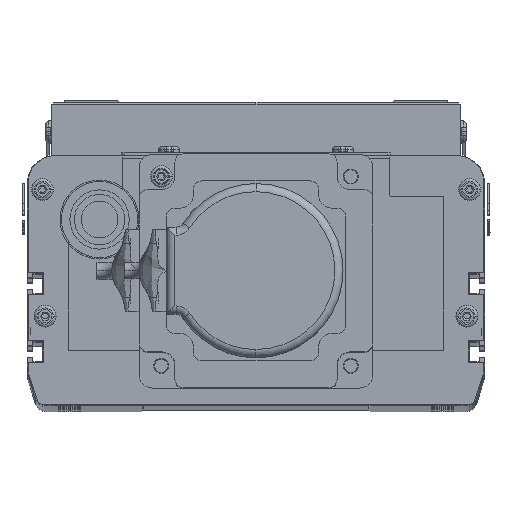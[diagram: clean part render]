
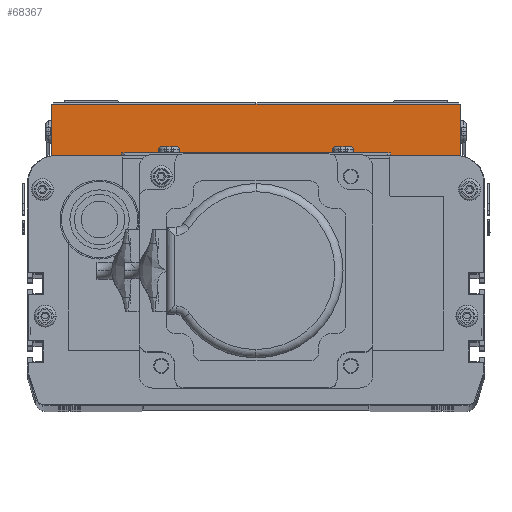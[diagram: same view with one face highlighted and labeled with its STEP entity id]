
A CAD part, top view. The second image highlights one B-rep face of the part: STEP entity #68367.
In plain terms, the highlighted planar face has unit normal (0, 0, 1) as drawn and (1, 0, 0) by its records, which use the part's own axes.
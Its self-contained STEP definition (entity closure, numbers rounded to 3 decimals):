
#40096 = VECTOR ( 'NONE', #40105, 1000. ) ;
#40097 = CARTESIAN_POINT ( 'NONE',  ( 220., 20., -150. ) ) ;
#40098 = LINE ( 'NONE', #40097, #40096 ) ;
#40105 = DIRECTION ( 'NONE',  ( 0., -1., 0. ) ) ;
#40241 = CARTESIAN_POINT ( 'NONE',  ( 220., 0., 0. ) ) ;
#40319 = CARTESIAN_POINT ( 'NONE',  ( 220., 19.5, -150. ) ) ;
#40401 = CARTESIAN_POINT ( 'NONE',  ( 220., 0., -150. ) ) ;
#40906 = DIRECTION ( 'NONE',  ( 0., 0., -1. ) ) ;
#40907 = VECTOR ( 'NONE', #40906, 1000. ) ;
#40908 = CARTESIAN_POINT ( 'NONE',  ( 220., 0., 0. ) ) ;
#41188 = LINE ( 'NONE', #40908, #40907 ) ;
#41230 = CARTESIAN_POINT ( 'NONE',  ( 220., 19.5, 0. ) ) ;
#41299 = DIRECTION ( 'NONE',  ( 0., 0., 1. ) ) ;
#41300 = DIRECTION ( 'NONE',  ( -1., 0., 0. ) ) ;
#41346 = VECTOR ( 'NONE', #41348, 1000. ) ;
#41348 = DIRECTION ( 'NONE',  ( 0., 0., 1. ) ) ;
#41358 = LINE ( 'NONE', #41536, #41346 ) ;
#41366 = DIRECTION ( 'NONE',  ( 0., -1., 0. ) ) ;
#41367 = CARTESIAN_POINT ( 'NONE',  ( 220., 20., 0. ) ) ;
#41368 = LINE ( 'NONE', #41367, #41564 ) ;
#41380 = FACE_OUTER_BOUND ( 'NONE', #68409, .T. ) ;
#41398 = AXIS2_PLACEMENT_3D ( 'NONE', #41522, #41300, #41299 ) ;
#41489 = DIRECTION ( 'NONE',  ( 0., 0., 1. ) ) ;
#41491 = VECTOR ( 'NONE', #41489, 1000. ) ;
#41522 = CARTESIAN_POINT ( 'NONE',  ( 220., 20., 0. ) ) ;
#41523 = PLANE ( 'NONE',  #41398 ) ;
#41536 = CARTESIAN_POINT ( 'NONE',  ( 220., 19.5, 0. ) ) ;
#41564 = VECTOR ( 'NONE', #41366, 1000. ) ;
#41566 = CARTESIAN_POINT ( 'NONE',  ( 220., 19.5, -75. ) ) ;
#41567 = CARTESIAN_POINT ( 'NONE',  ( 220., 19.5, 0. ) ) ;
#41568 = LINE ( 'NONE', #41567, #41491 ) ;
#67815 = EDGE_CURVE ( 'NONE', #67914, #67915, #40098, .T. ) ;
#67914 = VERTEX_POINT ( 'NONE', #40319 ) ;
#67915 = VERTEX_POINT ( 'NONE', #40401 ) ;
#67948 = VERTEX_POINT ( 'NONE', #40241 ) ;
#68142 = EDGE_CURVE ( 'NONE', #67948, #67915, #41188, .T. ) ;
#68144 = VERTEX_POINT ( 'NONE', #41230 ) ;
#68222 = ORIENTED_EDGE ( 'NONE', *, *, #68257, .T. ) ;
#68223 = ORIENTED_EDGE ( 'NONE', *, *, #68224, .T. ) ;
#68224 = EDGE_CURVE ( 'NONE', #68258, #68144, #41358, .T. ) ;
#68257 = EDGE_CURVE ( 'NONE', #68144, #67948, #41368, .T. ) ;
#68258 = VERTEX_POINT ( 'NONE', #41566 ) ;
#68259 = ORIENTED_EDGE ( 'NONE', *, *, #68261, .T. ) ;
#68261 = EDGE_CURVE ( 'NONE', #67914, #68258, #41568, .T. ) ;
#68367 = ADVANCED_FACE ( 'NONE', ( #41380 ), #41523, .F. ) ;
#68373 = ORIENTED_EDGE ( 'NONE', *, *, #67815, .F. ) ;
#68409 = EDGE_LOOP ( 'NONE', ( #68373, #68259, #68223, #68222, #68431 ) ) ;
#68431 = ORIENTED_EDGE ( 'NONE', *, *, #68142, .T. ) ;
